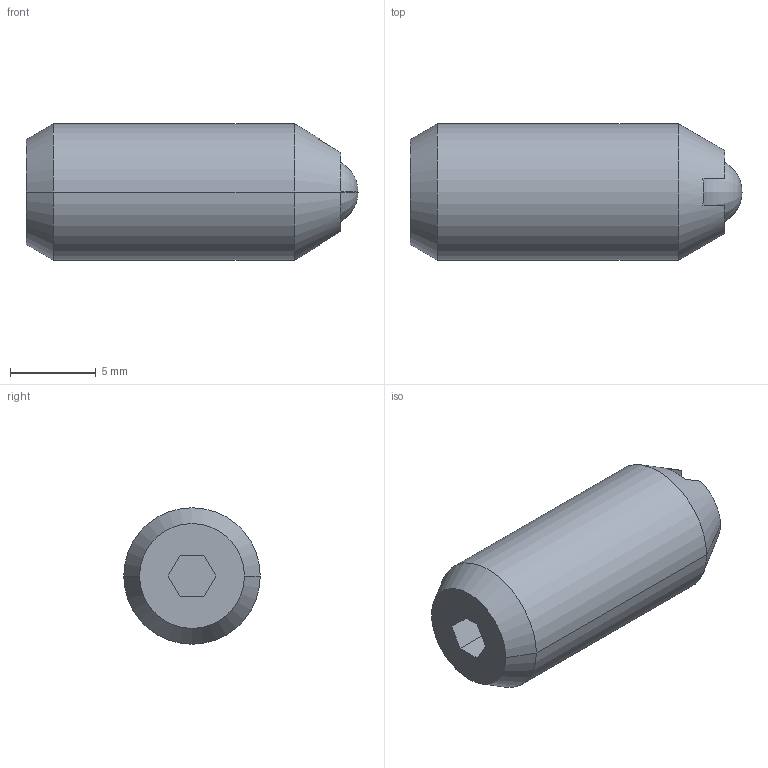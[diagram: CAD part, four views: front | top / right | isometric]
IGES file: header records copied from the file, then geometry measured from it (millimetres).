
Start section:  PTC IGES file: phb56-3d.igs
Global section: file name: phb56-3d.igs; native system: Pro/ENGINEER by Parametric Technology Corporation; preprocessor: 2002350; author: chant; organization: Unknown; date: 061026.090918; units: inch
Bounding box: 19.3 x 7.94 x 7.94 mm (x, y, z)
Surface area: 616 mm2 (no closed solid volume)
Topology: 0 solids, 0 shells, 27 faces, 191 edges, 241 vertices
Faces by surface type: bspline 15, revolution 12
